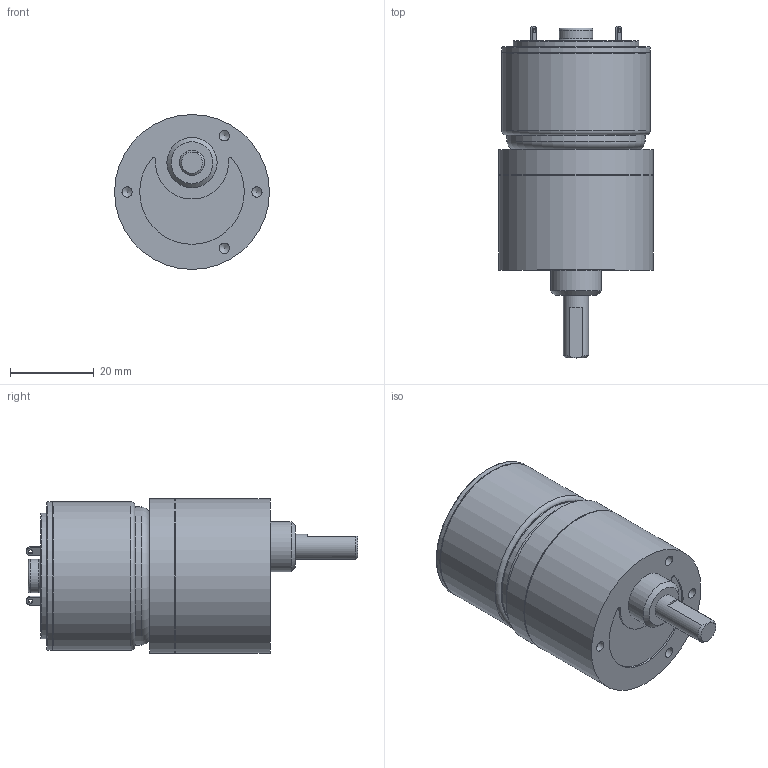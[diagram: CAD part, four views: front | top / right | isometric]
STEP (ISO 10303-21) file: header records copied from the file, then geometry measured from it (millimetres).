
FILE_DESCRIPTION((''),'2;1');
FILE_NAME('C:\Documents and Settings\SSEGAWA\デスクトップ\TP-3526E-HM-4.STP','2013-07-09T15:12:23',('SSEGAWA'),(''),'Autodesk Inventor 2010','Autodesk Inventor 2010','');
FILE_SCHEMA(('CONFIG_CONTROL_DESIGN'));
Length unit declared in the file: millimetre
Products named in the file (3): tp_3526e_hm_4; hm_4; tp_3526e
Assembly tree (2 placements, depth 2):
  tp_3526e_hm_4
    hm_4
    tp_3526e
Bounding box: 37 x 79.3 x 37 mm (x, y, z)
Volume: 56761.2 mm3; surface area: 11151.1 mm2
Topology: 2 solids, 2 shells, 76 faces, 162 edges, 106 vertices
Faces by surface type: plane 28, cylinder 22, bspline 18, torus 5, cone 3
Full cylindrical faces by diameter (mm): 1.1 x1, 2 x1, 2.4 x1, 5 x1, 6 x1, 8 x1, 10 x1, 12 x1, 30 x1, 33 x1, 35 x1, 35.4 x2, 36.6 x1, 37 x2
Entity records: 2088 total; most frequent: CARTESIAN_POINT 659, DIRECTION 297, ORIENTED_EDGE 202, EDGE_LOOP 137, AXIS2_PLACEMENT_3D 135, EDGE_CURVE 101, VERTEX_POINT 86, FACE_OUTER_BOUND 76
